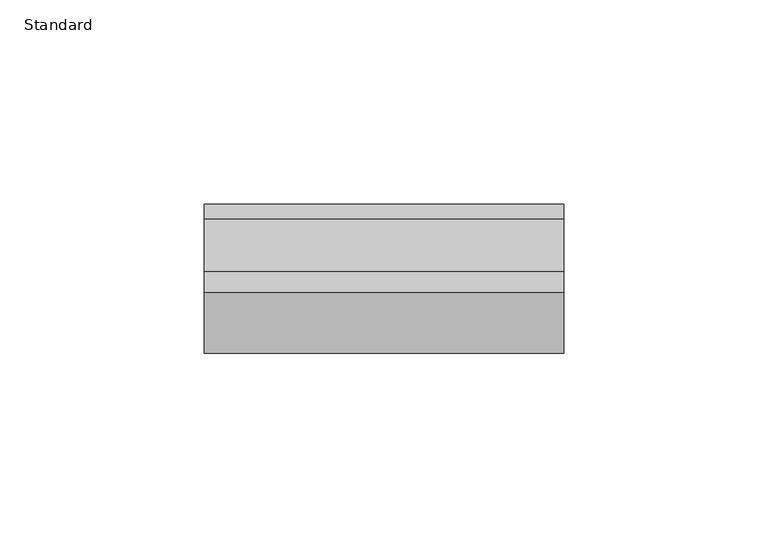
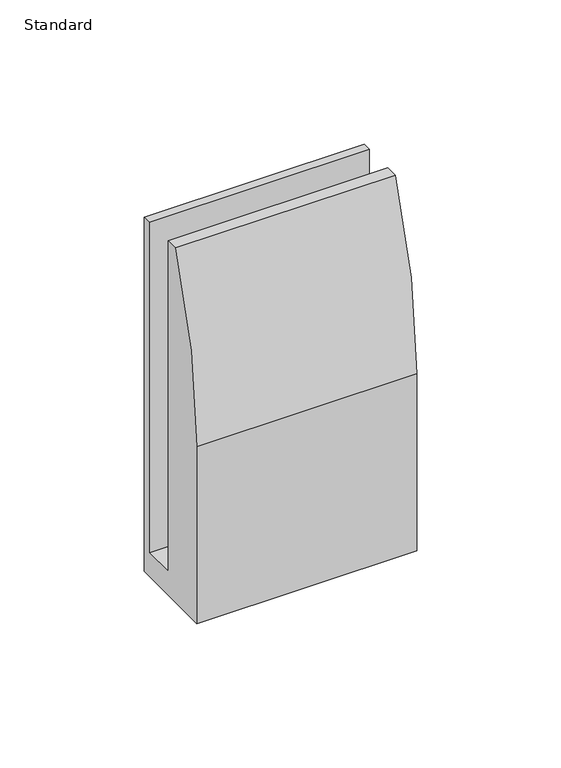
"""IFC4 building model written with IfcOpenShell, lengths in millimetres: furniture geometry, X_Partition-Channel-Duracube-Skirting : Standard."""

from ifc_helpers import new_model, si_unit, point, frame, frame_2d, origin, place, context, project, spatial, polyline, circle_curve, trimmed, segment, composite_curve, outline, extrude, source, transform, mapped, element, save


def standard_8fe30837(model_context):
    return source(origin(), model_context, "Body", "SweptSolid", [
        extrude(outline(composite_curve([segment(polyline([(-3.5, 150.0), (0.0, 150.0), (0.0, 0.0), (-36.5, 0.0), (-36.5, 75.0)]), True, "CONTINUOUS"), segment(trimmed(circle_curve(frame_2d((158.5, 75.0)), 195.0), [point((-36.5, 75.0))], [point((-21.5, 150.0))], False, "CARTESIAN"), True, "CONTINUOUS"), segment(polyline([(-21.5, 150.0), (-16.5, 150.0), (-16.5, 10.000005), (-3.5, 10.000005), (-3.5, 150.0)]), True, "CONTINUOUS")], self_intersect=False)), frame((0.7003264, 0.0, 0.0), z_axis=(1.0, 0.0, 0.0), x_axis=(0.0, 1.0, 0.0)), (0.0, 0.0, 1.0), 88.0),
    ])


if __name__ == "__main__":
    model = new_model("IFC4")
    model_context = context("Model", 3, world=origin())
    ifc_project = project(units=[si_unit("LENGTHUNIT", "METRE", prefix="MILLI")], contexts=[model_context])
    site = spatial("IfcSite", under=ifc_project)
    building = spatial("IfcBuilding", under=site)
    placement = place(None, origin())
    standard_shape = standard_8fe30837(model_context)
    element("IfcFurniture", 1, ObjectType="X_Partition-Channel-Duracube-Skirting : Standard", at=placement, inside=building, context=model_context, shape_type="MappedRepresentation", body=[
        mapped(standard_shape, transform((0.0, 0.0, 0.0), x_axis=(1.0, 0.0, 0.0), y_axis=(0.0, 1.0, 0.0), z_axis=(0.0, 0.0, 1.0))),
    ])
    save(model, "model.ifc")
